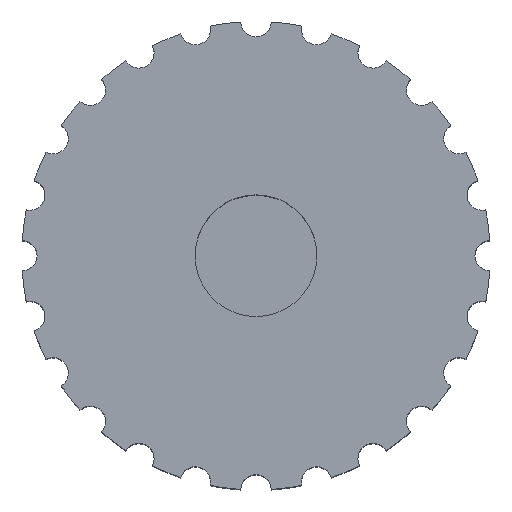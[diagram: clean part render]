
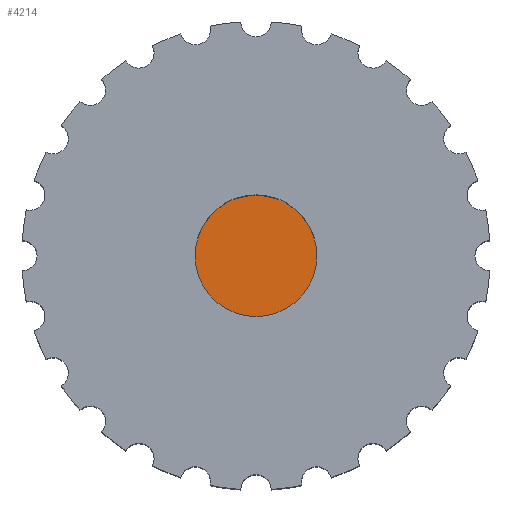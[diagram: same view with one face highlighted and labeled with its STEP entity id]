
A CAD part, top view. The second image highlights one B-rep face of the part: STEP entity #4214.
In plain terms, the highlighted planar face has unit normal (0, 0, 1).
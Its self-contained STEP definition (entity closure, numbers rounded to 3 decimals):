
#1554 = CYLINDRICAL_SURFACE('',#1555,2.6);
#1555 = AXIS2_PLACEMENT_3D('',#1556,#1557,#1558);
#1556 = CARTESIAN_POINT('',(0.,0.,3.));
#1557 = DIRECTION('',(0.,0.,1.));
#1558 = DIRECTION('',(1.,0.,-0.));
#3964 = VERTEX_POINT('',#3965);
#3965 = CARTESIAN_POINT('',(2.6,0.,3.));
#3986 = EDGE_CURVE('',#3964,#3964,#3987,.T.);
#3987 = SURFACE_CURVE('',#3988,(#3993,#4000),.PCURVE_S1.);
#3988 = CIRCLE('',#3989,2.6);
#3989 = AXIS2_PLACEMENT_3D('',#3990,#3991,#3992);
#3990 = CARTESIAN_POINT('',(0.,0.,3.));
#3991 = DIRECTION('',(0.,0.,1.));
#3992 = DIRECTION('',(1.,0.,-0.));
#3993 = PCURVE('',#1554,#3994);
#3994 = DEFINITIONAL_REPRESENTATION('',(#3995),#3999);
#3995 = LINE('',#3996,#3997);
#3996 = CARTESIAN_POINT('',(0.,0.));
#3997 = VECTOR('',#3998,1.);
#3998 = DIRECTION('',(1.,0.));
#3999 = ( GEOMETRIC_REPRESENTATION_CONTEXT(2)
PARAMETRIC_REPRESENTATION_CONTEXT() REPRESENTATION_CONTEXT('2D SPACE',''
  ) );
#4000 = PCURVE('',#4001,#4006);
#4001 = PLANE('',#4002);
#4002 = AXIS2_PLACEMENT_3D('',#4003,#4004,#4005);
#4003 = CARTESIAN_POINT('',(0.,0.,3.));
#4004 = DIRECTION('',(0.,0.,1.));
#4005 = DIRECTION('',(1.,0.,-0.));
#4006 = DEFINITIONAL_REPRESENTATION('',(#4007),#4011);
#4007 = CIRCLE('',#4008,2.6);
#4008 = AXIS2_PLACEMENT_2D('',#4009,#4010);
#4009 = CARTESIAN_POINT('',(0.,0.));
#4010 = DIRECTION('',(1.,0.));
#4011 = ( GEOMETRIC_REPRESENTATION_CONTEXT(2)
PARAMETRIC_REPRESENTATION_CONTEXT() REPRESENTATION_CONTEXT('2D SPACE',''
  ) );
#4214 = ADVANCED_FACE('',(#4215),#4001,.T.);
#4215 = FACE_BOUND('',#4216,.F.);
#4216 = EDGE_LOOP('',(#4217));
#4217 = ORIENTED_EDGE('',*,*,#3986,.F.);
